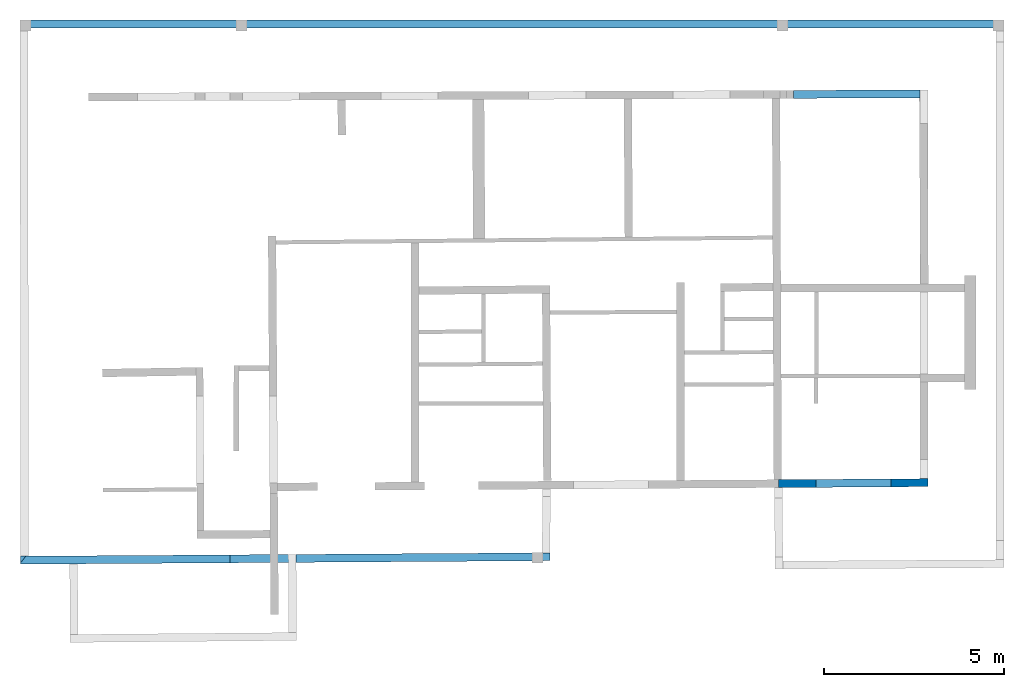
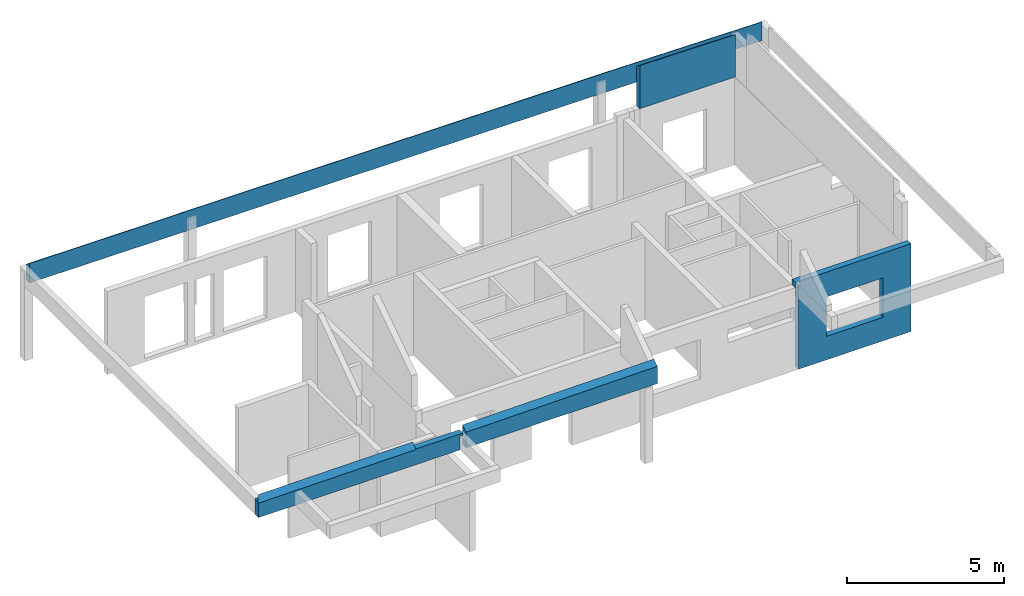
# One storey, part 3 of 3: 5 walls.
"""IFC2X3 building model written with IfcOpenShell, lengths in centimetres."""

from ifc_helpers import new_model, entity, si_unit, converted_unit, direction, frame, origin, place, context, subcontext, project, spatial, faceted_brep, material, layer, layer_set, type_object, element, save


model = new_model("IFC2X3")

# Units and contexts
model_context = context("Model", 3, precision=0.001, world=frame((0.0, 0.0, 13090.0)), true_north=direction((6.123233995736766e-17, 1.0)))
body_context = subcontext(model_context, "Body", "Model", "MODEL_VIEW")
ifc_project = project(units=[si_unit("LENGTHUNIT", "METRE", prefix="CENTI"), si_unit("AREAUNIT", "SQUARE_METRE"), si_unit("VOLUMEUNIT", "CUBIC_METRE"), converted_unit("PLANEANGLEUNIT", "DEGREE", entity("IfcPlaneAngleMeasure", 0.017453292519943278), si_unit("PLANEANGLEUNIT", "RADIAN"), dimensions=[0, 0, 0, 0, 0, 0, 0])], contexts=[model_context])

# Site, building, storey
site_placement = place(None, origin())
site = spatial("IfcSite", under=ifc_project, at=site_placement, Name="Default", CompositionType="ELEMENT")
building_placement = place(site_placement, origin())
building = spatial("IfcBuilding", under=site, at=building_placement, Name="e 39 logements et 22 maisons relais", CompositionType="ELEMENT")
storey_placement = place(building_placement, origin())
storey = spatial("IfcBuildingStorey", under=building, at=storey_placement, Name="RDC", CompositionType="ELEMENT", Elevation=0.0)

# Walls
ifc_material = material(Name="Béton - Béton coulé sur place")
ifc_layer = layer(ifc_material, 22.0)
ifc_layer_set = layer_set([ifc_layer], Name="Mur de base:BA - 22cm")
wall_type = type_object("IfcWallType", Name="Mur de base:BA - 22cm", PredefinedType="STANDARD", material=ifc_layer_set)
wall_1_placement = place(storey_placement, frame((-750.3572555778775, -761.59964230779, 290.0), z_axis=(0.0, 0.0, 1.0), x_axis=(-0.9999784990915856, -0.0065575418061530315, 0.0)))
element("IfcWall", 1, at=wall_1_placement, inside=storey, type_object=wall_type, Name="Mur de base:BA - 22cm", ObjectType="Mur de base:BA - 22cm", context=body_context, shape_type="Brep", body=[
    faceted_brep([(11.0, -11.0, 0.0), (523.6640227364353, -11.0, 0.0), (545.664022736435, -11.0, 0.0), (731.5112344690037, -11.0, 0.0), (753.5115514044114, -11.0, 0.0), (753.5115514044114, -11.0, 59.48518537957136), (753.5115514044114, -11.0, 61.14069111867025), (739.2626756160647, -11.0, 61.14069111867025), (739.2626756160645, -11.0, 71.83558145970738), (567.6640227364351, -11.0, 72.64937111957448), (545.664022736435, -11.0, 72.7537039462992), (172.60379729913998, -11.0, 74.52290521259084), (172.60379729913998, -11.0, 61.14069111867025), (0.0, -11.0, 61.14069111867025), (0.0, -11.0, 52.0), (11.0, -11.0, 52.0), (11.0, 11.0, 0.0), (11.0, 11.0, 52.0), (0.0, 11.0, 52.0), (0.0, 11.0, 61.14069111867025), (172.74806632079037, 11.0, 61.14069111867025), (172.74806632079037, 11.0, 58.612206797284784), (753.629641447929, 11.0, 55.857433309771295), (753.629641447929, 11.0, 0.0), (617.6640227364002, 11.0, 0.0), (595.6640227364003, 11.0, 0.0), (753.6064740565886, 6.683949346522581, 58.9788353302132), (753.6064740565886, 6.683949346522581, 61.14069111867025), (751.1945711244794, 3.7104016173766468, 61.14069111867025), (172.72513948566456, 7.503820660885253, 61.14069111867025)], [[[0, 1, 2, 3, 4, 5, 6, 7, 8, 9, 10, 11, 12, 13, 14, 15]], [[16, 17, 18, 19, 20, 21, 22, 23, 24, 25]], [[4, 3, 2, 1, 0, 16, 25, 24, 23]], [[6, 5, 4, 23, 22, 26, 27]], [[14, 13, 19, 18]], [[14, 18, 17, 15]], [[0, 15, 17, 16]], [[7, 6, 27, 28]], [[7, 28, 8]], [[13, 12, 29, 20, 19]], [[20, 29, 21]], [[11, 10, 9, 8, 28, 26, 22, 21, 29]], [[28, 27, 26]], [[29, 12, 11]]]),
])
wall_2_placement = place(storey_placement, frame((-34.878346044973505, -756.9077585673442, 290.0), z_axis=(0.0, 0.0, 1.0), x_axis=(-0.9999784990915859, -0.006557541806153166, 0.0)))
element("IfcWall", 2, at=wall_2_placement, inside=storey, type_object=wall_type, Name="Mur de base:BA - 22cm", ObjectType="Mur de base:BA - 22cm", context=body_context, shape_type="Brep", body=[
    faceted_brep([(0.0, -11.0, 81.6391852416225), (0.0, -11.0, 0.0), (22.00226756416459, -11.0, 0.0), (704.4942933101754, -11.0, 0.0), (704.4942933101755, -11.0, 52.0), (704.4942933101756, -11.0, 75.92889765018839), (626.2172521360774, -11.0, 76.57594988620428), (547.9401846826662, -11.0, 77.21981481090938), (469.6630912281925, -11.0, 77.86051122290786), (391.38597205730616, -11.0, 78.49805777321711), (313.1088274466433, -11.0, 79.13247296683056), (234.83165766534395, -11.0, 79.76377516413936), (156.55446298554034, -11.0, 80.39198258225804), (78.27724367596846, -11.0, 81.01711329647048), (704.4942933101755, 11.0, 60.27976828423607), (704.4942933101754, 11.0, 0.0), (0.31587650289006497, 11.0, 0.0), (0.3158765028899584, 11.0, 66.7122216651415), (78.558046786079, 11.0, 66.01115155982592), (156.8001868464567, 11.0, 65.30671628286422), (235.04229635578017, 11.0, 64.59889611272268), (313.2843749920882, 11.0, 63.88767117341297), (391.5264224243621, 11.0, 63.17302143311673), (469.76843831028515, 11.0, 62.45492670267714), (548.010422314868, 11.0, 61.733366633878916), (626.252374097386, 11.0, 61.00832071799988), (704.4942933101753, 5.499986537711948, 64.19203186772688), (704.4942933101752, -1.790609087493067e-05, 68.10430792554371), (704.4942933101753, -5.500013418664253, 72.01659651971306), (0.07896934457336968, -5.499984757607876, 77.90746654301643), (0.15793854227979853, 2.0255892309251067e-05, 74.17573309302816), (0.2369075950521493, 5.500015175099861, 70.4439848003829)], [[[0, 1, 2, 3, 4, 5, 6, 7, 8, 9, 10, 11, 12, 13]], [[14, 15, 16, 17, 18, 19, 20, 21, 22, 23, 24, 25]], [[2, 1, 16, 15, 3]], [[4, 3, 15, 14, 26, 27, 28, 5]], [[1, 0, 29, 30, 31, 17, 16]], [[0, 13, 29]], [[30, 29, 13]], [[19, 12, 11]], [[13, 12, 18]], [[20, 11, 10]], [[31, 30, 18]], [[17, 31, 18]], [[18, 30, 13]], [[19, 11, 20]], [[12, 19, 18]], [[10, 21, 20]], [[10, 9, 21]], [[8, 22, 9]], [[7, 23, 8]], [[6, 5, 28]], [[7, 6, 24]], [[6, 28, 27]], [[22, 8, 23]], [[23, 7, 24]], [[27, 26, 25]], [[14, 25, 26]], [[25, 24, 6]], [[25, 6, 27]], [[9, 22, 21]]]),
])
wall_3_placement = place(storey_placement, frame((1202.8343840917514, 721.5252742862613, 290.0), z_axis=(0.0, 0.0, 1.0), x_axis=(-1.0, 0.0, 0.0)))
element("IfcWall", 3, at=wall_3_placement, inside=storey, type_object=wall_type, Name="Mur de base:BA - 22cm", ObjectType="Mur de base:BA - 22cm", context=body_context, shape_type="Brep", body=[
    faceted_brep([(0.0, -11.0, 0.0), (8.0, -11.0, 0.0), (577.3232497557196, -11.0, 0.0), (607.3232497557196, -11.0, 0.0), (2078.5093167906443, -11.0, 0.0), (2108.509316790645, -11.0, 0.0), (2678.5487508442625, -11.0, 0.0), (2686.5297747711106, -11.0, 0.0), (2686.5297747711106, -11.0, 59.485185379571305), (2686.5297747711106, -11.0, 60.347817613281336), (2125.8638587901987, -11.0, 60.34781761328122), (2125.8638587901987, -11.0, 60.93148247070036), (1955.7839062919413, -11.0, 60.891731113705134), (1785.7039537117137, -11.0, 60.85233203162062), (1615.624001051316, -11.0, 60.81328056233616), (1445.5440483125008, -11.0, 60.77457212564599), (1275.4640954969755, -11.0, 60.73620222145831), (1190.4241190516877, -10.999999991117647, 60.71718433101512), (1105.3841426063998, -11.0, 60.698166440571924), (1020.3441661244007, -10.999999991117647, 60.67931342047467), (935.3041896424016, -11.0, 60.660460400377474), (765.2242366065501, -11.0, 60.623079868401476), (595.1442835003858, -11.0, 60.58602063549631), (595.1442835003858, -11.0, 60.913430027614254), (529.0171408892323, -11.0, 60.38740765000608), (462.88999827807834, -11.0, 59.86138527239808), (396.7628556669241, -11.0, 59.33536289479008), (330.6357130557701, -11.0, 58.80934051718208), (264.508570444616, -11.0, 58.28331813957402), (198.38142783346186, -11.0, 57.75729576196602), (132.25428522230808, -11.0, 57.23127338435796), (66.1271426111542, -11.0, 56.70525100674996), (0.0, -11.0, 56.17922862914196), (2686.5035967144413, 11.0, 0.0), (2678.5487508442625, 11.0, 0.0), (2108.5093167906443, 11.0, 0.0), (2078.509316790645, 11.0, 0.0), (607.3232497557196, 11.0, 0.0), (577.3232497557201, 11.0, 0.0), (0.0, 11.0, 0.0), (0.0, 11.0, 72.10530781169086), (59.51442835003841, 11.0, 72.57494231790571), (119.02885670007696, 11.0, 73.04457682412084), (178.5432850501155, 11.0, 73.51421133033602), (238.05771340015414, 11.0, 73.98384583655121), (297.5721417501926, 11.0, 74.45348034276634), (357.08657010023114, 11.0, 74.92311484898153), (416.6009984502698, 11.0, 75.39274935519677), (476.11542680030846, 11.0, 75.8623838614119), (535.6298551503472, 11.0, 76.33201836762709), (595.1442835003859, 11.0, 76.80165287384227), (595.1442835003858, 11.0, 75.89063499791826), (748.2162431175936, 11.0, 75.98340066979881), (901.2882022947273, 11.0, 76.07688955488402), (1054.3601610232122, 11.0, 76.17111014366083), (1207.4321192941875, 11.0, 76.26607106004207), (1360.5040770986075, 11.0, 76.36178105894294), (1513.5760344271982, 11.0, 76.45824905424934), (1666.647991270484, 11.0, 76.555484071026), (1819.7199476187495, 11.0, 76.65349529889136), (1972.7919034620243, 11.0, 76.7522920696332), (2125.8638587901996, 11.0, 76.85188386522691), (2125.8638587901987, 11.0, 76.0165216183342), (2686.503596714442, 11.0, 76.01652161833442), (2686.503596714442, 11.0, 50.0), (0.0, -5.499923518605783, 60.16059944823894), (0.0, 0.00011415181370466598, 64.14207642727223), (0.0, 5.500089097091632, 68.12364519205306), (2125.8638587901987, 5.5, 72.87178351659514), (2125.8638587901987, 0.0, 68.89168316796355), (2125.8638587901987, -5.5, 64.91158281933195), (595.1442835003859, 0.0, 68.8575414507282), (444.19513437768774, 0.12967363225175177, 67.75522151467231), (595.1442835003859, -5.5, 64.88548573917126), (101.07780175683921, -0.43578867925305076, 64.62752538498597), (323.46471468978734, 0.210421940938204, 66.85705435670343), (202.73467550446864, 0.24224575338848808, 65.9235582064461), (595.1442835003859, 5.5, 72.82959716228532), (595.1442835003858, -5.5, 64.41217422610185), (595.1442835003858, 0.0, 68.23832781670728), (595.1442835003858, 5.5, 72.06448140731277), (703.7827931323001, -0.5266288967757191, 67.91566163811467), (1232.689737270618, -0.36314984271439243, 68.24744161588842), (1340.401025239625, -1.139168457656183, 67.74230143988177), (1967.6647264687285, -0.03283811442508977, 68.79806818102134), (1075.529003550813, -0.13905221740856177, 68.33993880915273), (977.5370354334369, 1.1904175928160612, 69.23297282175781), (1655.6094667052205, -0.43541665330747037, 68.37419432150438), (1766.9792464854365, 0.7361204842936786, 69.26154542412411), (872.0740229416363, -0.9398719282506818, 67.6943153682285), (1554.4172436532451, -0.6243476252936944, 68.19658815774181), (1446.230371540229, 1.3744217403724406, 69.57237076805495), (1870.5016364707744, -1.3787494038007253, 67.78797174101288)], [[[0, 1, 2, 3, 4, 5, 6, 7, 8, 9, 10, 11, 12, 13, 14, 15, 16, 17, 18, 19, 20, 21, 22, 23, 24, 25, 26, 27, 28, 29, 30, 31, 32]], [[33, 34, 35, 36, 37, 38, 39, 40, 41, 42, 43, 44, 45, 46, 47, 48, 49, 50, 51, 52, 53, 54, 55, 56, 57, 58, 59, 60, 61, 62, 63, 64]], [[2, 1, 0, 39, 38, 37, 36, 35, 34, 33, 7, 6, 5, 4, 3]], [[65, 66, 67, 40, 39, 0, 32]], [[7, 33, 64, 63, 9, 8]], [[68, 69, 70, 11, 10, 62, 61]], [[62, 10, 9, 63]], [[24, 71, 72]], [[26, 25, 24, 72]], [[73, 71, 24, 23]], [[30, 74, 31]], [[75, 26, 72]], [[30, 29, 28, 76]], [[28, 27, 26, 75]], [[31, 74, 65]], [[65, 32, 31]], [[30, 76, 74]], [[75, 76, 28]], [[49, 72, 71]], [[46, 45, 75, 47]], [[45, 76, 75]], [[72, 49, 48, 47]], [[77, 50, 49, 71]], [[66, 74, 67]], [[76, 45, 44, 43]], [[42, 41, 74, 43]], [[74, 76, 43]], [[65, 74, 66]], [[41, 40, 67]], [[72, 47, 75]], [[67, 74, 41]], [[77, 71, 73, 23, 22, 78, 79, 80, 51, 50]], [[22, 21, 81]], [[82, 16, 83]], [[68, 84, 70, 69]], [[22, 81, 80, 79, 78]], [[85, 54, 86]], [[87, 13, 88]], [[58, 88, 59]], [[20, 86, 89]], [[70, 84, 12]], [[17, 85, 18]], [[15, 90, 91]], [[91, 83, 15]], [[51, 80, 52]], [[85, 82, 55]], [[80, 81, 52]], [[16, 82, 17]], [[86, 20, 19]], [[52, 81, 89]], [[90, 15, 14]], [[55, 54, 85]], [[19, 85, 86]], [[55, 82, 56]], [[57, 91, 90]], [[92, 12, 84]], [[89, 81, 21]], [[58, 90, 87]], [[12, 11, 70]], [[88, 13, 92]], [[17, 82, 85]], [[16, 15, 83]], [[13, 12, 92]], [[84, 60, 92]], [[52, 89, 53]], [[91, 56, 83]], [[90, 58, 57]], [[54, 53, 86]], [[60, 59, 92]], [[87, 88, 58]], [[86, 53, 89]], [[61, 60, 68]], [[56, 91, 57]], [[85, 19, 18]], [[68, 60, 84]], [[21, 20, 89]], [[14, 13, 87]], [[56, 82, 83]], [[88, 92, 59]], [[90, 14, 87]]]),
])
wall_4_placement = place(storey_placement, frame((587.8180913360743, -554.1209880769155, 0.0), z_axis=(0.0, 0.0, 1.0), x_axis=(0.9999784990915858, 0.006557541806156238, 0.0)))
element("IfcWall", 4, at=wall_4_placement, inside=storey, type_object=wall_type, Name="Mur de base:BA - 22cm", ObjectType="Mur de base:BA - 22cm", context=body_context, shape_type="Brep", body=[
    faceted_brep([(323.30000000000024, -11.0, 244.0), (323.30000000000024, -11.0, 91.0), (115.30000000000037, -11.0, 91.0), (115.30000000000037, -11.0, 244.0), (11.0, -11.0, 320.0), (11.0, -11.0, 0.0), (426.5255978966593, -11.0, 0.0), (426.5255978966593, -11.0, 340.0), (22.0, -11.0, 340.0), (0.0, -11.0, 340.0), (0.0, -11.0, 320.0), (323.30000000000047, 11.0, 244.0), (115.30000000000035, 11.0, 244.0), (115.30000000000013, 11.0, 91.0), (323.30000000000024, 11.0, 91.0), (11.0, 11.0, 0.0), (11.0, 11.0, 320.0), (0.0, 11.0, 320.0), (0.0, 11.0, 340.0), (22.0, 11.0, 340.0), (404.66939388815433, 11.0, 340.0), (426.66986691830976, 11.0, 340.0), (426.66986691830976, 11.0, 0.0), (404.66939388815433, 11.0, 0.0), (20.2357769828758, 11.0, 0.0), (0.0, -10.865635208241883, 340.0)], [[[0, 1, 2, 3], [4, 5, 6, 7, 8, 9, 10]], [[11, 12, 13, 14], [15, 16, 17, 18, 19, 20, 21, 22, 23, 24]], [[6, 5, 15, 24, 23, 22]], [[9, 8, 7, 21, 20, 19, 18, 25]], [[7, 6, 22, 21]], [[0, 3, 12, 11]], [[3, 2, 13, 12]], [[2, 1, 14, 13]], [[1, 0, 11, 14]], [[4, 16, 15, 5]], [[10, 17, 16, 4]], [[10, 9, 25, 18, 17]]], outer=[[False, True], [False, True], [True], [True], [True], [True], [True], [True], [True], [True], [True], [True]]),
])
wall_5_placement = place(storey_placement, frame((641.2901126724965, 526.1395006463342, 340.0), z_axis=(0.0, 0.0, 1.0), x_axis=(0.9999927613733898, 0.003804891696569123, 0.0)))
element("IfcWall", 5, at=wall_5_placement, inside=storey, type_object=wall_type, Name="Mur de base:BA - 22cm", ObjectType="Mur de base:BA - 22cm", context=body_context, shape_type="Brep", body=[
    faceted_brep([(0.0, -11.0, 0.0), (351.07722634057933, -11.0, 0.0), (351.07722634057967, -11.0, 164.20715545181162), (312.06863952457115, -11.0, 164.59201650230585), (273.06004188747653, -11.0, 164.9768149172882), (234.05144928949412, -11.0, 165.3615504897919), (195.04286173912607, -11.0, 165.74622316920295), (156.0342792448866, -11.0, 166.13083290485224), (117.02570181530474, -11.0, 166.5153796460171), (78.01712945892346, -11.0, 166.89986334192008), (39.008562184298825, -11.0, 167.28428394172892), (0.0, -11.0, 167.66864139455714), (351.160934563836, 11.0, 0.0), (0.0, 11.0, 0.0), (0.0, 11.0, 151.77725541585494), (39.017877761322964, 11.0, 151.38830781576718), (78.03574226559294, 11.0, 150.99930196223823), (117.05361181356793, 11.0, 150.6102377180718), (156.07148639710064, 11.0, 150.22111512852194), (195.08936600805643, 11.0, 149.83193423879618), (234.10725063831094, 11.0, 149.44269509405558), (273.1251402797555, 11.0, 149.05339773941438), (312.1430349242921, 11.0, 148.66404221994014), (351.160934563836, 11.0, 148.27462858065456), (0.0, -5.500013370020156, 163.6957740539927), (0.0, -1.8275551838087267e-05, 159.72292133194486), (0.0, 5.499986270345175, 155.75008191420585), (351.1400070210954, 5.49987202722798, 152.25753326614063), (351.11907974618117, -0.00018555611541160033, 156.24059597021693), (351.0981528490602, -5.500143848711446, 160.22380192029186), (136.87037821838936, -0.004094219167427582, 158.36895254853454), (248.6047780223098, 0.02567582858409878, 157.2391387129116)], [[[0, 1, 2, 3, 4, 5, 6, 7, 8, 9, 10, 11]], [[12, 13, 14, 15, 16, 17, 18, 19, 20, 21, 22, 23]], [[1, 0, 13, 12]], [[0, 11, 24, 25, 26, 14, 13]], [[27, 28, 29, 2, 1, 12, 23]], [[16, 26, 30]], [[18, 17, 30]], [[15, 14, 26]], [[15, 26, 16]], [[19, 18, 30]], [[30, 17, 16]], [[8, 7, 30]], [[22, 21, 27]], [[23, 22, 27]], [[31, 5, 4]], [[31, 28, 27]], [[21, 31, 27]], [[19, 30, 31]], [[21, 20, 31]], [[31, 20, 19]], [[25, 30, 26]], [[30, 9, 8]], [[30, 24, 9]], [[30, 7, 6]], [[24, 10, 9]], [[10, 24, 11]], [[29, 3, 2]], [[3, 29, 4]], [[4, 29, 31]], [[28, 31, 29]], [[30, 6, 31]], [[6, 5, 31]], [[25, 24, 30]]]),
])

save(model, "model.ifc")
